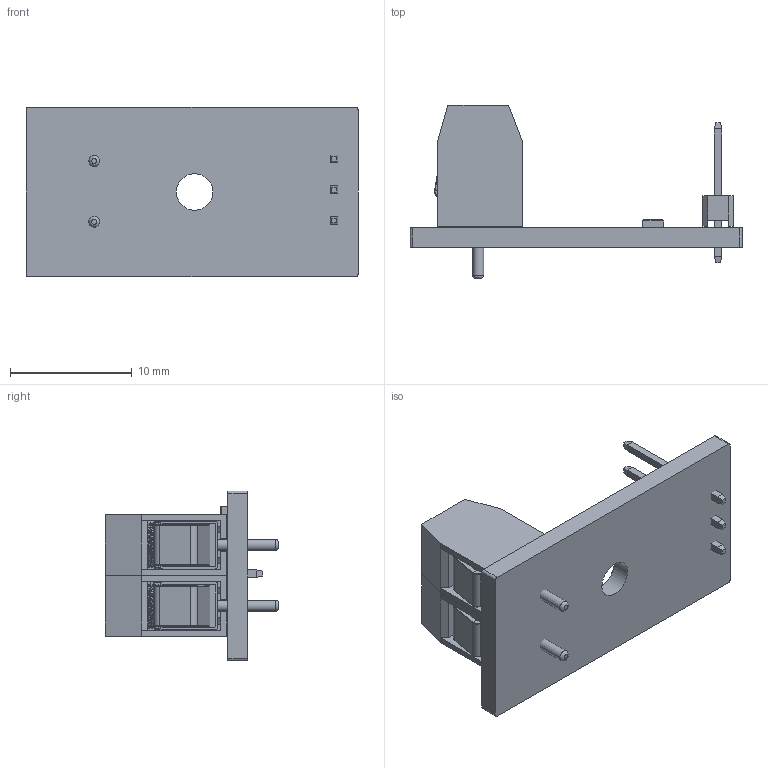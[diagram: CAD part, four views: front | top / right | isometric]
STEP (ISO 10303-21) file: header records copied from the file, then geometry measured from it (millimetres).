
FILE_DESCRIPTION(/* description */ (''),/* implementation_level */ '2;1');
FILE_NAME(/* name */ 'Arduino voltage sensor v1.step',/* time_stamp */ '2025-06-01T08:36:14-05:00',/* author */ (''),/* organization */ (''),/* preprocessor_version */ 'ST-DEVELOPER v20.1',/* originating_system */ 'Autodesk Translation Framework v14.10.0.0',/* authorisation */ '');
FILE_SCHEMA (('AUTOMOTIVE_DESIGN { 1 0 10303 214 3 1 1 }'));
Products named in the file (7): capteur de tension; HEADER10P; PCB Mount Screw Terminal Block Connector_4 Pins; Wire Tension Clip; Set Screw; Wire Socket; ConnectorBody
Assembly tree (10 placements, depth 3):
  capteur de tension
    HEADER10P
    PCB Mount Screw Terminal Block Connector_4 Pins
      ConnectorBody  x2
      Wire Socket  x2
      Set Screw  x2
      Wire Tension Clip  x2
Bounding box: 27.31 x 14.25 x 13.98 mm (x, y, z)
Volume: 1124.1 mm3; surface area: 2859.2 mm2
Topology: 12 solids, 12 shells, 1624 faces, 4341 edges, 2791 vertices
Faces by surface type: plane 795, bspline 550, cylinder 240, sphere 16, cone 15, torus 8
Full cylindrical faces by diameter (mm): 0.9 x2, 1.075 x8, 3 x1, 3.5 x28, 3.771 x26, 3.8 x4, 6.882 x1
Entity records: 73797 total; most frequent: CARTESIAN_POINT 41742, ORIENTED_EDGE 7382, DIRECTION 4553, EDGE_CURVE 3691, VERTEX_POINT 2411, LINE 2347, VECTOR 2347, EDGE_LOOP 1472
